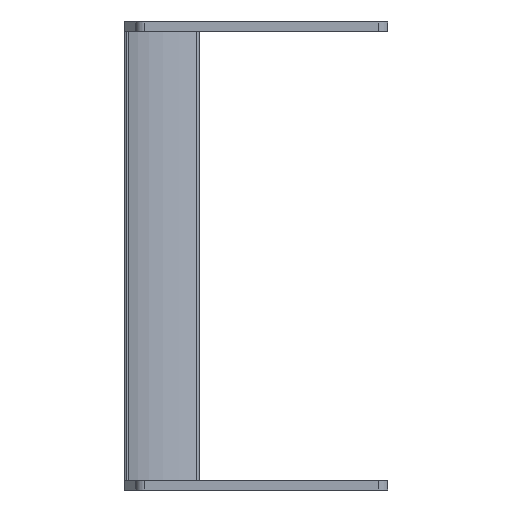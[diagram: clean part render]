
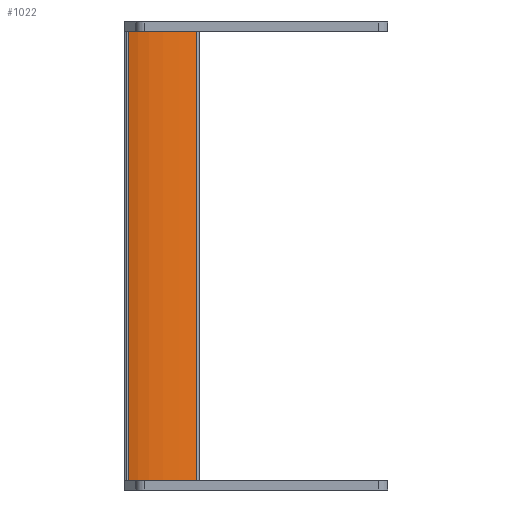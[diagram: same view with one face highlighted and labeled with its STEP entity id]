
A CAD part, left-side view. The second image highlights one B-rep face of the part: STEP entity #1022.
In plain terms, the highlighted cylindrical face has radius 40.64 mm (diameter 81.28 mm), a partial arc.
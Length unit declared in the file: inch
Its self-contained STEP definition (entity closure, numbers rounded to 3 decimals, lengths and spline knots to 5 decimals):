
#255 = ORIENTED_EDGE ( 'NONE', *, *, #2832, .F. ) ;
#288 = VERTEX_POINT ( 'NONE', #1284 ) ;
#413 = CIRCLE ( 'NONE', #2653, 1.6 ) ;
#493 = DIRECTION ( 'NONE',  ( 0., 0., -1. ) ) ;
#582 = ORIENTED_EDGE ( 'NONE', *, *, #2457, .T. ) ;
#750 = DIRECTION ( 'NONE',  ( 0., 0., -1. ) ) ;
#897 = ORIENTED_EDGE ( 'NONE', *, *, #2497, .F. ) ;
#960 = CARTESIAN_POINT ( 'NONE',  ( -0.11675, -1.00032, 3.118 ) ) ;
#1022 = ADVANCED_FACE ( 'NONE', ( #1755 ), #2449, .F. ) ;
#1116 = VERTEX_POINT ( 'NONE', #960 ) ;
#1126 = CARTESIAN_POINT ( 'NONE',  ( -1.63, -1.52, -3.118 ) ) ;
#1284 = CARTESIAN_POINT ( 'NONE',  ( -0.98126, -0.05742, -3.118 ) ) ;
#1396 = ORIENTED_EDGE ( 'NONE', *, *, #2519, .T. ) ;
#1704 = DIRECTION ( 'NONE',  ( -1., 0., 0. ) ) ;
#1755 = FACE_OUTER_BOUND ( 'NONE', #2541, .T. ) ;
#1929 = DIRECTION ( 'NONE',  ( 0., 0., -1. ) ) ;
#2165 = CARTESIAN_POINT ( 'NONE',  ( -1.63, -1.52, 3.118 ) ) ;
#2431 = AXIS2_PLACEMENT_3D ( 'NONE', #2484, #493, #1704 ) ;
#2449 = CYLINDRICAL_SURFACE ( 'NONE', #2431, 1.6 ) ;
#2457 = EDGE_CURVE ( 'NONE', #4942, #288, #3081, .T. ) ;
#2484 = CARTESIAN_POINT ( 'NONE',  ( -1.63, -1.52, 3.118 ) ) ;
#2497 = EDGE_CURVE ( 'NONE', #1116, #5245, #3133, .T. ) ;
#2519 = EDGE_CURVE ( 'NONE', #288, #5245, #413, .T. ) ;
#2541 = EDGE_LOOP ( 'NONE', ( #1396, #897, #255, #582 ) ) ;
#2545 = AXIS2_PLACEMENT_3D ( 'NONE', #2165, #3843, #2600 ) ;
#2600 = DIRECTION ( 'NONE',  ( -1., 0., 0. ) ) ;
#2626 = CIRCLE ( 'NONE', #2545, 1.6 ) ;
#2653 = AXIS2_PLACEMENT_3D ( 'NONE', #1126, #1929, #5214 ) ;
#2832 = EDGE_CURVE ( 'NONE', #4942, #1116, #2626, .T. ) ;
#3081 = LINE ( 'NONE', #4833, #3460 ) ;
#3133 = LINE ( 'NONE', #3546, #4493 ) ;
#3208 = CARTESIAN_POINT ( 'NONE',  ( -0.11675, -1.00032, -3.118 ) ) ;
#3460 = VECTOR ( 'NONE', #750, 39.37008 ) ;
#3546 = CARTESIAN_POINT ( 'NONE',  ( -0.11675, -1.00032, 3.118 ) ) ;
#3843 = DIRECTION ( 'NONE',  ( 0., 0., -1. ) ) ;
#4276 = CARTESIAN_POINT ( 'NONE',  ( -0.98126, -0.05742, 3.118 ) ) ;
#4437 = DIRECTION ( 'NONE',  ( 0., 0., -1. ) ) ;
#4493 = VECTOR ( 'NONE', #4437, 39.37008 ) ;
#4833 = CARTESIAN_POINT ( 'NONE',  ( -0.98126, -0.05742, 3.118 ) ) ;
#4942 = VERTEX_POINT ( 'NONE', #4276 ) ;
#5214 = DIRECTION ( 'NONE',  ( -1., 0., 0. ) ) ;
#5245 = VERTEX_POINT ( 'NONE', #3208 ) ;
